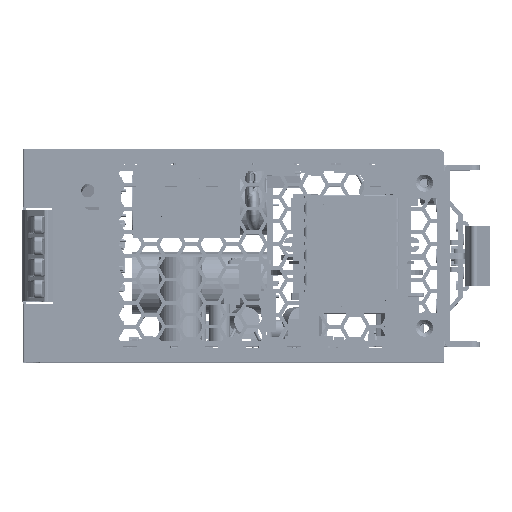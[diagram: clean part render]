
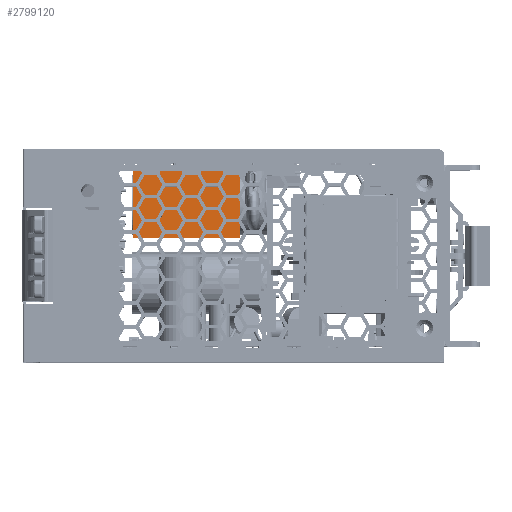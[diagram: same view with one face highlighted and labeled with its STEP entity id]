
A CAD part, top view. The second image highlights one B-rep face of the part: STEP entity #2799120.
In plain terms, the highlighted planar face has unit normal (0, 0, 1) as drawn and (1, 0, 0) by its records, which use the part's own axes.
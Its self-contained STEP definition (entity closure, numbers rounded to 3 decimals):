
#2798600=CARTESIAN_POINT('',(5.5,-16.,0.));
#2798610=VERTEX_POINT('',#2798600);
#2798690=CARTESIAN_POINT('',(5.5,-16.,20.))
;
#2798700=VERTEX_POINT('',#2798690);
#2798730=CARTESIAN_POINT('',(5.5,-16.,20.))
;
#2798740=DIRECTION('',(0.,0.,-1.));
#2798750=VECTOR('',#2798740,1.);
#2798760=LINE('',#2798730,#2798750);
#2798770=EDGE_CURVE('',#2798700,#2798610,#2798760,.T.);
#2798820=CARTESIAN_POINT('',(5.5,16.,0.));
#2798830=DIRECTION('',(1.,0.,0.));
#2798840=DIRECTION('',(0.,-1.,0.));
#2798850=AXIS2_PLACEMENT_3D('',#2798820,#2798830,#2798840);
#2798860=PLANE('',#2798850);
#2798870=CARTESIAN_POINT('',(5.5,-16.,0.));
#2798880=DIRECTION('',(0.,1.,0.));
#2798890=VECTOR('',#2798880,1.);
#2798900=LINE('',#2798870,#2798890);
#2798910=CARTESIAN_POINT('',(5.5,16.,0.));
#2798920=VERTEX_POINT('',#2798910);
#2798930=EDGE_CURVE('',#2798610,#2798920,#2798900,.T.);
#2798940=ORIENTED_EDGE('',*,*,#2798930,.T.);
#2798950=ORIENTED_EDGE('',*,*,#2798770,.T.);
#2798960=CARTESIAN_POINT('',(5.5,16.,20.));
#2798970=DIRECTION('',(0.,-1.,0.));
#2798980=VECTOR('',#2798970,1.);
#2798990=LINE('',#2798960,#2798980);
#2799000=CARTESIAN_POINT('',(5.5,16.,20.));
#2799010=VERTEX_POINT('',#2799000);
#2799020=EDGE_CURVE('',#2799010,#2798700,#2798990,.T.);
#2799030=ORIENTED_EDGE('',*,*,#2799020,.T.);
#2799040=CARTESIAN_POINT('',(5.5,16.,20.));
#2799050=DIRECTION('',(0.,0.,-1.));
#2799060=VECTOR('',#2799050,1.);
#2799070=LINE('',#2799040,#2799060);
#2799080=EDGE_CURVE('',#2799010,#2798920,#2799070,.T.);
#2799090=ORIENTED_EDGE('',*,*,#2799080,.F.);
#2799100=EDGE_LOOP('',(#2799090,#2799030,#2798950,#2798940));
#2799110=FACE_OUTER_BOUND('',#2799100,.T.);
#2799120=ADVANCED_FACE('',(#2799110),#2798860,.T.);
